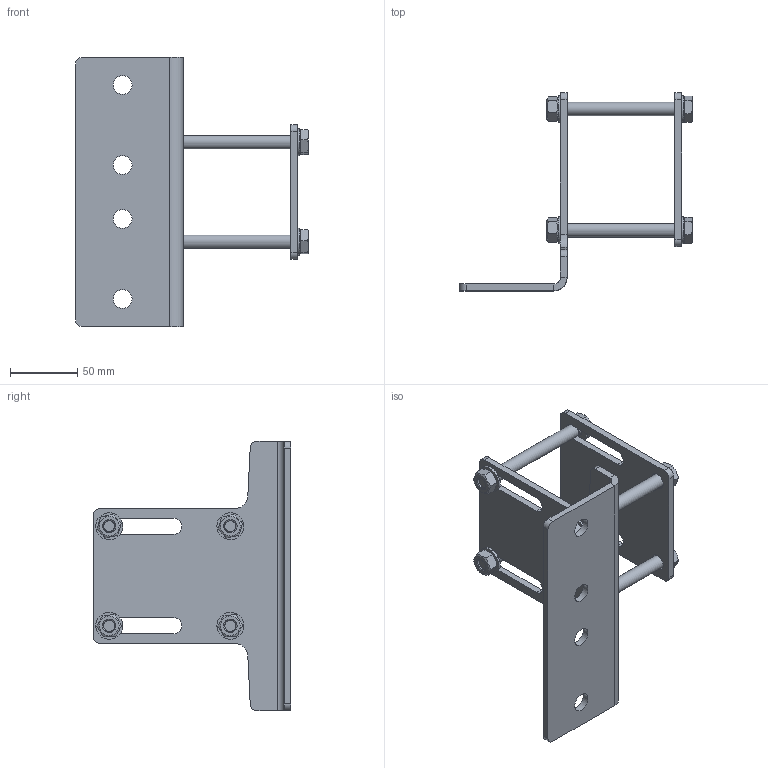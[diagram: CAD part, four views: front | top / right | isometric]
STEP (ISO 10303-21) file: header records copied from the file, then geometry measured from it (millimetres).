
FILE_DESCRIPTION(/* description */ (''),/* implementation_level */ '2;1');
FILE_NAME(/* name */ 'D:\VDV Techniek\Documents\Inventor\_ISP_Products\UDG on SquareTube\UDG SquareTube Clamped\STP\Square tube 80mm-out-Mounting bracket.stp',/* time_stamp */ '2022-12-29T15:45:25+01:00',/* author */ ('jos'),/* organization */ (''),/* preprocessor_version */ 'ST-DEVELOPER v15.2',/* originating_system */ 'Autodesk Inventor 2014',/* authorisation */ '');
FILE_SCHEMA (('AUTOMOTIVE_DESIGN { 1 0 10303 214 3 1 1 }'));
Length unit declared in the file: millimetre
Products named in the file (6): UDG_Mounting_Bracket_universal_HDG; UDG_Counter_Plate_universal_HDG; ISO 4032 - M10DIN EN; DIN 126 - 11; DIN 933 - M10  x 100; Square tube 80mm-out-Mounting bracket
Assembly tree (18 placements, depth 2):
  Square tube 80mm-out-Mounting bracket
    UDG_Mounting_Bracket_universal_HDG
    UDG_Counter_Plate_universal_HDG
    ISO 4032 - M10DIN EN  x4
    DIN 126 - 11  x8
    DIN 933 - M10  x 100  x4
Bounding box: 173.1 x 147 x 200 mm (x, y, z)
Volume: 244482.4 mm3; surface area: 114519.3 mm2
Topology: 18 solids, 18 shells, 228 faces, 504 edges, 320 vertices
Faces by surface type: plane 118, cylinder 62, cone 48
Full cylindrical faces by diameter (mm): 8.376 x4, 9.188 x4, 10 x4, 11 x8, 12 x4, 14 x4, 15.4 x4, 20 x8
Entity records: 3034 total; most frequent: CARTESIAN_POINT 538, DIRECTION 520, ORIENTED_EDGE 434, EDGE_CURVE 217, AXIS2_PLACEMENT_3D 205, VERTEX_POINT 151, EDGE_LOOP 148, LINE 110
